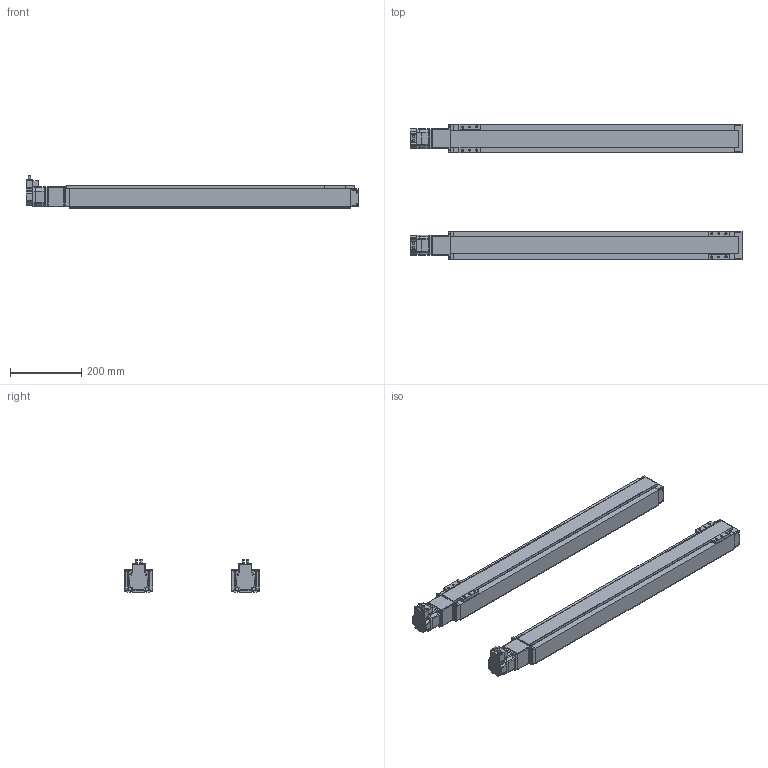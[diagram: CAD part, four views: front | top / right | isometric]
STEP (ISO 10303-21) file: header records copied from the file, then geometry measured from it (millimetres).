
FILE_DESCRIPTION(('FreeCAD Model'),'2;1');
FILE_NAME('Open CASCADE Shape Model','2023-08-01T15:24:32',('Author'),( ''),'Open CASCADE STEP processor 7.5','FreeCAD','Unknown');
FILE_SCHEMA(('AUTOMOTIVE_DESIGN { 1 0 10303 214 1 1 1 1 }'));
Length unit declared in the file: millimetre
Products named in the file (47): Unnamed; Shapes; Shapes001; Shapes002; Shapes003; Shapes004; Shapes005; Shapes006; Shapes007; Shapes008; Shapes009; Shapes010; Shapes011; Shapes012; Shapes013; Shapes014; Shapes015; Shapes016; Shapes017; Shapes018; Shapes019; Shapes020; Shapes021; Shapes022; Shapes023; Shapes024; Shapes025; Shapes026; Shapes027; Shapes028; Shapes029; Shapes030; Shapes031; Shapes032; Shapes033; Shapes034; Shapes035; Shapes036; Shapes037; Shapes038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
Assembly tree (46 placements, depth 2):
  Unnamed
    Shapes
    Shapes001
    Shapes002
    Shapes003
    Shapes004
    Shapes005
    Shapes006
    Shapes007
    Shapes008
    Shapes009
    Shapes010
    Shapes011
    Shapes012
    Shapes013
    Shapes014
    Shapes015
    Shapes016
    Shapes017
    Shapes018
    Shapes019
    Shapes020
    Shapes021
    Shapes022
    Shapes023
    Shapes024
    Shapes025
    Shapes026
    Shapes027
    Shapes028
    Shapes029
    Shapes030
    Shapes031
    Shapes032
    Shapes033
    Shapes034
    Shapes035
    Shapes036
    Shapes037
    Shapes038
    Shapes039
    Shapes040
    Shapes041
    Shapes042
    Shapes043
    Shapes044
    Shapes045
Bounding box: 932.6 x 380 x 91.1 mm (x, y, z)
Volume: 8570957.9 mm3; surface area: 1268954.5 mm2
Topology: 46 solids, 46 shells, 1336 faces, 3478 edges, 2228 vertices
Faces by surface type: cylinder 788, plane 406, torus 104, bspline 18, sphere 16, revolution 4
Entity records: 321888 total; most frequent: CARTESIAN_POINT 251175, DIRECTION 13399, LINE 7417, VECTOR 7417, ORIENTED_EDGE 6924, PCURVE 6924, DEFINITIONAL_REPRESENTATION 6924, EDGE_CURVE 3462
